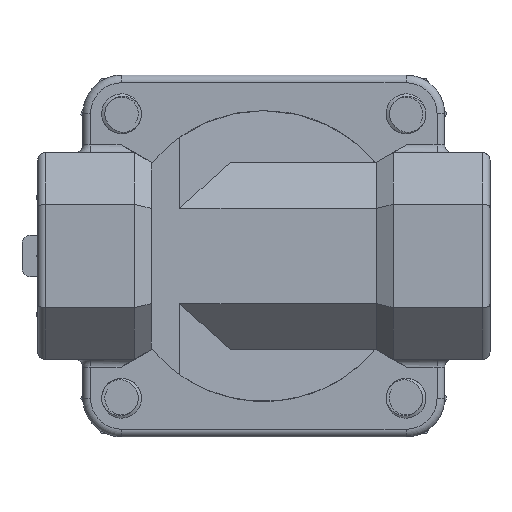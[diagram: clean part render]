
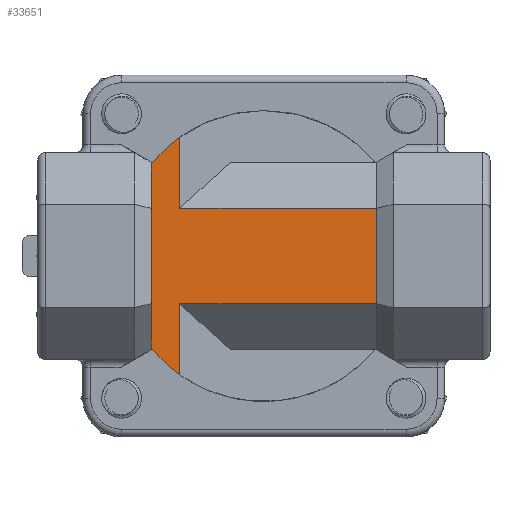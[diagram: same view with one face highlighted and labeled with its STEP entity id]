
A CAD part, front view. The second image highlights one B-rep face of the part: STEP entity #33651.
In plain terms, the highlighted planar face has unit normal (0, -1, 0).
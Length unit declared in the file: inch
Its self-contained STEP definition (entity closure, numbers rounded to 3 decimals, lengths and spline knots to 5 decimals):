
#312 = DIRECTION ( 'NONE',  ( 0., -1., 0. ) ) ;
#657 = CARTESIAN_POINT ( 'NONE',  ( -2.46234, -1.35811, 0.29061 ) ) ;
#733 = CARTESIAN_POINT ( 'NONE',  ( 0.686, -1.35811, 0.29061 ) ) ;
#786 = VERTEX_POINT ( 'NONE', #4670 ) ;
#816 = VECTOR ( 'NONE', #33100, 39.37008 ) ;
#1049 = DIRECTION ( 'NONE',  ( 0., 0., -1. ) ) ;
#1420 = CARTESIAN_POINT ( 'NONE',  ( -0.686, -1.35811, -0.29061 ) ) ;
#1888 = EDGE_CURVE ( 'Defeatured_0_52+Defeatured_0_41+Defeatured_0_38+Defeatured_0_42', #35766, #17587, #28950, .T. ) ;
#1903 = FACE_OUTER_BOUND ( 'NONE', #35290, .T. ) ;
#1932 = EDGE_CURVE ( 'Defeatured_0_52+Defeatured_0_40+Defeatured_0_43+Defeatured_0_39', #786, #2109, #6238, .T. ) ;
#2109 = VERTEX_POINT ( 'NONE', #15800 ) ;
#2775 = LINE ( 'NONE', #36192, #27256 ) ;
#3239 = VECTOR ( 'NONE', #6808, 39.37008 ) ;
#4670 = CARTESIAN_POINT ( 'NONE',  ( -0.51112, -1.35811, 0.72371 ) ) ;
#4780 = ORIENTED_EDGE ( 'NONE', *, *, #1888, .T. ) ;
#5100 = LINE ( 'NONE', #33462, #816 ) ;
#5492 = CARTESIAN_POINT ( 'NONE',  ( -0.686, -1.35811, -0.56071 ) ) ;
#5652 = DIRECTION ( 'NONE',  ( 1., 0., 0. ) ) ;
#6238 = CIRCLE ( 'NONE', #15872, 0.886 ) ;
#6627 = DIRECTION ( 'NONE',  ( 1., 0., 0. ) ) ;
#6808 = DIRECTION ( 'NONE',  ( 0., 0., 1. ) ) ;
#6883 = EDGE_CURVE ( 'Defeatured_0_39+Defeatured_0_52+Defeatured_0_81+Defeatured_0_40', #19291, #2109, #5100, .T. ) ;
#7293 = ORIENTED_EDGE ( 'NONE', *, *, #34984, .T. ) ;
#8502 = LINE ( 'NONE', #22692, #22080 ) ;
#9461 = CARTESIAN_POINT ( 'NONE',  ( 0., -1.35811, 0. ) ) ;
#9737 = ORIENTED_EDGE ( 'NONE', *, *, #33380, .T. ) ;
#11522 = EDGE_CURVE ( 'Defeatured_0_52+Defeatured_0_42+Defeatured_0_41+Defeatured_0_51', #17587, #12094, #2775, .T. ) ;
#11596 = VERTEX_POINT ( 'NONE', #25541 ) ;
#11707 = DIRECTION ( 'NONE',  ( 0., 0., -1. ) ) ;
#12094 = VERTEX_POINT ( 'NONE', #15328 ) ;
#12563 = DIRECTION ( 'NONE',  ( 0., 0., 1. ) ) ;
#12593 = ORIENTED_EDGE ( 'NONE', *, *, #16538, .F. ) ;
#12699 = EDGE_CURVE ( 'Defeatured_0_52+Defeatured_0_82+Defeatured_0_39+Defeatured_0_38', #19291, #15315, #25458, .T. ) ;
#13696 = VERTEX_POINT ( 'NONE', #733 ) ;
#13916 = ORIENTED_EDGE ( 'NONE', *, *, #11522, .T. ) ;
#13920 = ORIENTED_EDGE ( 'NONE', *, *, #12699, .T. ) ;
#14353 = VECTOR ( 'NONE', #5652, 39.37008 ) ;
#15315 = VERTEX_POINT ( 'NONE', #1420 ) ;
#15328 = CARTESIAN_POINT ( 'NONE',  ( -0.51112, -1.35811, -0.29061 ) ) ;
#15375 = CARTESIAN_POINT ( 'NONE',  ( 0.686, -1.35811, -0.29061 ) ) ;
#15558 = LINE ( 'NONE', #26371, #16141 ) ;
#15800 = CARTESIAN_POINT ( 'NONE',  ( -0.686, -1.35811, 0.56071 ) ) ;
#15872 = AXIS2_PLACEMENT_3D ( 'NONE', #9461, #26427, #1049 ) ;
#15925 = PLANE ( 'NONE',  #35173 ) ;
#16141 = VECTOR ( 'NONE', #12563, 39.37008 ) ;
#16423 = EDGE_CURVE ( 'Defeatured_0_45+Defeatured_0_52+Defeatured_0_43+Defeatured_0_78', #11596, #13696, #32188, .T. ) ;
#16538 = EDGE_CURVE ( 'Defeatured_0_38+Defeatured_0_52+Defeatured_0_41+Defeatured_0_83', #35766, #15315, #29198, .T. ) ;
#17324 = CARTESIAN_POINT ( 'NONE',  ( 0., -1.35811, 0. ) ) ;
#17587 = VERTEX_POINT ( 'NONE', #27094 ) ;
#17668 = VERTEX_POINT ( 'NONE', #15375 ) ;
#19291 = VERTEX_POINT ( 'NONE', #36281 ) ;
#19295 = LINE ( 'NONE', #30650, #14353 ) ;
#22080 = VECTOR ( 'NONE', #28456, 39.37008 ) ;
#22303 = CARTESIAN_POINT ( 'NONE',  ( -0.686, -1.35811, 0. ) ) ;
#22553 = ORIENTED_EDGE ( 'NONE', *, *, #16423, .F. ) ;
#22692 = CARTESIAN_POINT ( 'NONE',  ( 0.686, -1.35811, 0.315 ) ) ;
#23365 = ORIENTED_EDGE ( 'NONE', *, *, #6883, .F. ) ;
#23417 = CARTESIAN_POINT ( 'NONE',  ( -0.686, -1.35811, 0. ) ) ;
#23601 = AXIS2_PLACEMENT_3D ( 'NONE', #17324, #312, #11707 ) ;
#24591 = ORIENTED_EDGE ( 'NONE', *, *, #1932, .T. ) ;
#25458 = LINE ( 'NONE', #22303, #36676 ) ;
#25541 = CARTESIAN_POINT ( 'NONE',  ( -0.51112, -1.35811, 0.29061 ) ) ;
#26371 = CARTESIAN_POINT ( 'NONE',  ( -0.51112, -1.35811, 0. ) ) ;
#26427 = DIRECTION ( 'NONE',  ( 0., -1., 0. ) ) ;
#26494 = VECTOR ( 'NONE', #6627, 39.37008 ) ;
#27094 = CARTESIAN_POINT ( 'NONE',  ( -0.51112, -1.35811, -0.72371 ) ) ;
#27256 = VECTOR ( 'NONE', #33933, 39.37008 ) ;
#28456 = DIRECTION ( 'NONE',  ( 0., 0., 1. ) ) ;
#28950 = CIRCLE ( 'NONE', #23601, 0.886 ) ;
#29198 = LINE ( 'NONE', #23417, #3239 ) ;
#30443 = CARTESIAN_POINT ( 'NONE',  ( -2.46234, -1.35811, 0.29061 ) ) ;
#30625 = DIRECTION ( 'NONE',  ( 0., 0., -1. ) ) ;
#30650 = CARTESIAN_POINT ( 'NONE',  ( -2.46234, -1.35811, -0.29061 ) ) ;
#30673 = DIRECTION ( 'NONE',  ( 0., 0., -1. ) ) ;
#31768 = ORIENTED_EDGE ( 'NONE', *, *, #33829, .T. ) ;
#32188 = LINE ( 'NONE', #657, #26494 ) ;
#33067 = DIRECTION ( 'NONE',  ( 0., -1., 0. ) ) ;
#33100 = DIRECTION ( 'NONE',  ( 0., 0., 1. ) ) ;
#33380 = EDGE_CURVE ( 'Defeatured_0_52+Defeatured_0_43+Defeatured_0_45+Defeatured_0_40', #11596, #786, #15558, .T. ) ;
#33462 = CARTESIAN_POINT ( 'NONE',  ( -0.686, -1.35811, 0. ) ) ;
#33651 = ADVANCED_FACE ( 'Defeatured_0_52', ( #1903 ), #15925, .T. ) ;
#33829 = EDGE_CURVE ( 'Defeatured_0_52+Defeatured_0_77+Defeatured_0_51+Defeatured_0_45', #17668, #13696, #8502, .T. ) ;
#33933 = DIRECTION ( 'NONE',  ( 0., 0., 1. ) ) ;
#34984 = EDGE_CURVE ( 'Defeatured_0_52+Defeatured_0_51+Defeatured_0_42+Defeatured_0_77', #12094, #17668, #19295, .T. ) ;
#35173 = AXIS2_PLACEMENT_3D ( 'NONE', #30443, #33067, #30625 ) ;
#35290 = EDGE_LOOP ( 'NONE', ( #7293, #31768, #22553, #9737, #24591, #23365, #13920, #12593, #4780, #13916 ) ) ;
#35766 = VERTEX_POINT ( 'NONE', #5492 ) ;
#36192 = CARTESIAN_POINT ( 'NONE',  ( -0.51112, -1.35811, 0. ) ) ;
#36281 = CARTESIAN_POINT ( 'NONE',  ( -0.686, -1.35811, 0.29061 ) ) ;
#36676 = VECTOR ( 'NONE', #30673, 39.37008 ) ;
